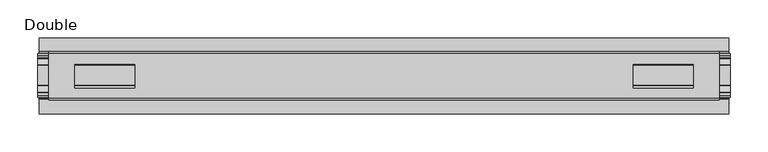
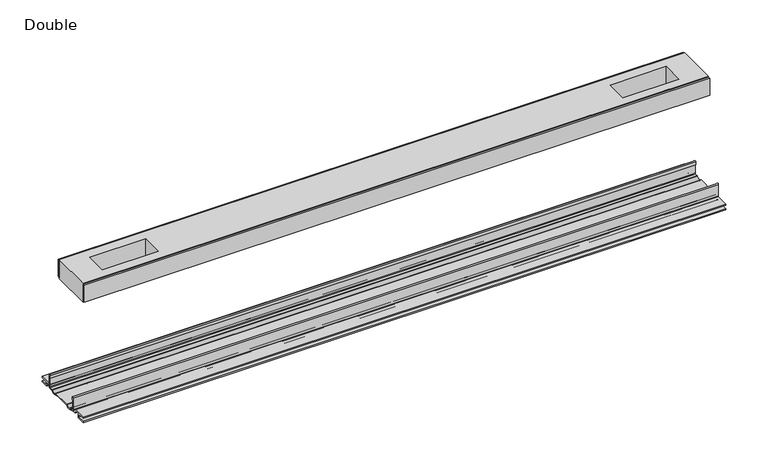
"""IFC4 building model written with IfcOpenShell, lengths in millimetres: proxy geometry, Frame-Teknion-FHCRA-Horizontal_Rail-R2022 : Double."""

from ifc_helpers import new_model, si_unit, point, frame, frame_2d, origin, place, context, project, spatial, polyline, circle_curve, trimmed, segment, composite_curve, outline, extrude, source, transform, mapped, element, save


def double_37cfa43e(model_context):
    return source(origin(), model_context, "Body", "SweptSolid", [
        extrude(outline(polyline([(441.2615091, -29.0068005), (441.2615091, -32.1817997), (-441.2615091, -32.1817997), (-441.2615091, -29.0068005), (441.2615091, -29.0068005)])), frame((0.0, 0.0, 149.8401622), z_axis=(0.0, 0.0, 1.0), x_axis=(1.0, 0.0, 0.0)), (0.0, 0.0, 1.0), 25.3999939),
        extrude(outline(polyline([(441.2615091, 32.1817997), (441.2615091, 29.0068005), (-441.2615091, 29.0068005), (-441.2615091, 32.1817997), (441.2615091, 32.1817997)])), frame((0.0, 0.0, 149.8401622), z_axis=(0.0, 0.0, 1.0), x_axis=(1.0, 0.0, 0.0)), (0.0, 0.0, 1.0), 25.3999939),
        extrude(outline(polyline([(441.2615091, 29.0068005), (441.2615091, -29.0068005), (-441.2615091, -29.0068005), (-441.2615091, 29.0068005), (441.2615091, 29.0068005)]), holes=[polyline([(406.8444965, 15.1130038), (327.7996847, 15.1130038), (327.7996847, -15.875003), (406.8444965, -15.875003), (406.8444965, 15.1130038)]), polyline([(-406.8444965, 15.1130038), (-406.8444965, -15.875003), (-327.7996847, -15.875003), (-327.7996847, 15.1130038), (-406.8444965, 15.1130038)])]), frame((0.0, 0.0, 148.4185847), z_axis=(0.0, 0.0, 1.0), x_axis=(1.0, 0.0, 0.0)), (0.0, 0.0, 1.0), 27.9999988),
        extrude(outline(composite_curve([segment(polyline([(-28.8162961, -7.7516037), (-28.8162961, 9.8607558)]), True, "CONTINUOUS"), segment(trimmed(circle_curve(frame_2d((-27.5970982, 9.8607558)), 1.2191979), [point((-28.8162961, 9.8607558))], [point((-26.3779003, 9.8607558))], False, "CARTESIAN"), True, "CONTINUOUS"), segment(polyline([(-26.3779003, 9.8607558), (-26.3779003, 5.9999563), (-27.6580769, 5.9999563), (-27.6580769, -7.7516037)]), True, "CONTINUOUS"), segment(trimmed(circle_curve(frame_2d((-26.6420561, -7.7516037)), 1.0160208), [point((-27.6580769, -7.7516037))], [point((-26.6485732, -8.7676036))], True, "CARTESIAN"), True, "CONTINUOUS"), segment(polyline([(-26.6485732, -8.7676036), (-22.7056226, -8.7676036), (-21.7922609, -8.968753)]), True, "CONTINUOUS"), segment(trimmed(circle_curve(frame_2d((-17.7673021, -6.1259382)), 4.9276657), [point((-21.7922609, -8.968753))], [point((-13.7423434, -8.968753))], True, "CARTESIAN"), True, "CONTINUOUS"), segment(polyline([(-13.7423434, -8.968753), (-12.8289726, -8.7676036), (13.2099722, -8.7676036), (14.123343, -8.968753)]), True, "CONTINUOUS"), segment(trimmed(circle_curve(frame_2d((18.1483018, -6.1259382)), 4.9276657), [point((14.123343, -8.968753))], [point((22.1732605, -8.968753))], True, "CARTESIAN"), True, "CONTINUOUS"), segment(polyline([(22.1732605, -8.968753), (23.0866222, -8.7676036), (27.0295728, -8.7676036)]), True, "CONTINUOUS"), segment(trimmed(circle_curve(frame_2d((27.0230557, -7.7516037)), 1.0160208), [point((27.0295728, -8.7676036))], [point((28.0390765, -7.7516037))], True, "CARTESIAN"), True, "CONTINUOUS"), segment(polyline([(28.0390765, -7.7516037), (28.0390765, 5.9999563), (26.7588999, 5.9999563), (26.7588999, 9.8607558)]), True, "CONTINUOUS"), segment(trimmed(circle_curve(frame_2d((27.9780978, 9.8607558)), 1.2191979), [point((26.7588999, 9.8607558))], [point((29.1972958, 9.8607558))], False, "CARTESIAN"), True, "CONTINUOUS"), segment(polyline([(29.1972958, 9.8607558), (29.1972958, -7.7516037)]), True, "CONTINUOUS"), segment(trimmed(circle_curve(frame_2d((27.0230557, -7.7516037)), 2.17424), [point((29.1972958, -7.7516037))], [point((27.0230557, -9.9258438))], False, "CARTESIAN"), True, "CONTINUOUS"), segment(polyline([(27.0230557, -9.9258438), (22.732069, -9.9258438)]), True, "CONTINUOUS"), segment(trimmed(circle_curve(frame_2d((18.1516545, -6.4800016)), 5.7318431), [point((22.732069, -9.9258438))], [point((13.57124, -9.9258438))], False, "CARTESIAN"), True, "CONTINUOUS"), segment(polyline([(13.57124, -9.9258438), (-13.1902404, -9.9258438)]), True, "CONTINUOUS"), segment(trimmed(circle_curve(frame_2d((-17.7706549, -6.4800016)), 5.7318431), [point((-13.1902404, -9.9258438))], [point((-22.3510694, -9.9258438))], False, "CARTESIAN"), True, "CONTINUOUS"), segment(polyline([(-22.3510694, -9.9258438), (-26.6420561, -9.9258438)]), True, "CONTINUOUS"), segment(trimmed(circle_curve(frame_2d((-26.6420561, -7.7516037)), 2.17424), [point((-26.6420561, -9.9258438))], [point((-28.8162961, -7.7516037))], False, "CARTESIAN"), True, "CONTINUOUS")], self_intersect=False)), frame((-455.3204, 0.0, 0.0), z_axis=(1.0, 0.0, 0.0), x_axis=(0.0, 1.0, 0.0)), (0.0, 0.0, 1.0), 910.6408),
        extrude(outline(composite_curve([segment(polyline([(-50.2668422, -13.9898438), (-50.2240211, -12.3388438), (-39.7827507, -12.3388438), (-39.7827507, -7.766844), (-50.2240211, -7.766844), (-50.2668422, -6.1158439), (-31.1784975, -6.1158439)]), True, "CONTINUOUS"), segment(trimmed(circle_curve(frame_2d((-31.1784975, -7.6398436)), 1.5239997), [point((-31.1784975, -6.1158439))], [point((-29.6544978, -7.6398436))], False, "CARTESIAN"), True, "CONTINUOUS"), segment(polyline([(-29.6544978, -7.6398436), (-29.6544978, -9.9258438), (-23.1058344, -9.9258438)]), True, "CONTINUOUS"), segment(trimmed(circle_curve(frame_2d((-17.7673021, -5.2268471)), 7.1119966), [point((-23.1058344, -9.9258438))], [point((-12.4287699, -9.9258438))], True, "CARTESIAN"), True, "CONTINUOUS"), segment(polyline([(-12.4287699, -9.9258438), (12.8097695, -9.9258438)]), True, "CONTINUOUS"), segment(trimmed(circle_curve(frame_2d((18.1483018, -5.2268471)), 7.1119966), [point((12.8097695, -9.9258438))], [point((23.486834, -9.9258438))], True, "CARTESIAN"), True, "CONTINUOUS"), segment(polyline([(23.486834, -9.9258438), (30.0354975, -9.9258438), (30.0354975, -7.7656583)]), True, "CONTINUOUS"), segment(trimmed(circle_curve(frame_2d((31.6864982, -7.7656583)), 1.6510007), [point((30.0354975, -7.7656583))], [point((31.6239218, -6.1158439))], False, "CARTESIAN"), True, "CONTINUOUS"), segment(polyline([(31.6239218, -6.1158439), (50.00625, -6.1158439), (50.00625, -7.766844), (40.1637503, -7.766844), (40.1637503, -12.3388438), (50.00625, -12.3388438), (50.00625, -13.9898438), (40.0367518, -13.9898438)]), True, "CONTINUOUS"), segment(trimmed(circle_curve(frame_2d((40.0367518, -12.4658438)), 1.524), [point((40.0367518, -13.9898438))], [point((38.5127519, -12.4658438))], False, "CARTESIAN"), True, "CONTINUOUS"), segment(polyline([(38.5127519, -12.4658438), (38.5127519, -7.766844), (31.686497, -7.766844), (31.686497, -10.0528438)]), True, "CONTINUOUS"), segment(trimmed(circle_curve(frame_2d((30.1624971, -10.0528438)), 1.524), [point((31.686497, -10.0528438))], [point((30.1624971, -11.5768438))], False, "CARTESIAN"), True, "CONTINUOUS"), segment(polyline([(30.1624971, -11.5768438), (23.6563549, -11.5768438)]), True, "CONTINUOUS"), segment(trimmed(circle_curve(frame_2d((18.1483018, -6.4968436)), 7.4930002), [point((23.6563549, -11.5768438))], [point((12.8904968, -11.8354331))], False, "CARTESIAN"), True, "CONTINUOUS"), segment(polyline([(12.8904968, -11.8354331), (-12.5094972, -11.8354331)]), True, "CONTINUOUS"), segment(trimmed(circle_curve(frame_2d((-17.7673021, -6.4968436)), 7.4930002), [point((-12.5094972, -11.8354331))], [point((-23.2753553, -11.5768438))], False, "CARTESIAN"), True, "CONTINUOUS"), segment(polyline([(-23.2753553, -11.5768438), (-29.7814974, -11.5768438)]), True, "CONTINUOUS"), segment(trimmed(circle_curve(frame_2d((-29.7814974, -10.0528438)), 1.524), [point((-29.7814974, -11.5768438))], [point((-31.3054974, -10.0528438))], False, "CARTESIAN"), True, "CONTINUOUS"), segment(polyline([(-31.3054974, -10.0528438), (-31.3054974, -7.766844), (-38.1317522, -7.766844), (-38.1317522, -12.4658438)]), True, "CONTINUOUS"), segment(trimmed(circle_curve(frame_2d((-39.6557522, -12.4658438)), 1.524), [point((-38.1317522, -12.4658438))], [point((-39.6557522, -13.9898438))], False, "CARTESIAN"), True, "CONTINUOUS"), segment(polyline([(-39.6557522, -13.9898438), (-50.2668422, -13.9898438)]), True, "CONTINUOUS")], self_intersect=False)), frame((-453.6694, 0.0, 0.0), z_axis=(1.0, 0.0, 0.0), x_axis=(0.0, 1.0, 0.0)), (0.0, 0.0, 1.0), 907.3388),
    ])


if __name__ == "__main__":
    model = new_model("IFC4")
    model_context = context("Model", 3, world=origin())
    ifc_project = project(units=[si_unit("LENGTHUNIT", "METRE", prefix="MILLI")], contexts=[model_context])
    site = spatial("IfcSite", under=ifc_project)
    building = spatial("IfcBuilding", under=site)
    placement = place(None, origin())
    double_shape = double_37cfa43e(model_context)
    element("IfcBuildingElementProxy", 1, Name="Frame-Teknion-FHCRA-Horizontal_Rail-R2022 : Double", ObjectType="Frame-Teknion-FHCRA-Horizontal_Rail-R2022 : Double", at=placement, inside=building, context=model_context, shape_type="MappedRepresentation", body=[
        mapped(double_shape, transform((0.0, 0.0, 0.0), x_axis=(1.0, 0.0, 0.0), y_axis=(0.0, 1.0, 0.0), z_axis=(0.0, 0.0, 1.0))),
    ])
    save(model, "model.ifc")
